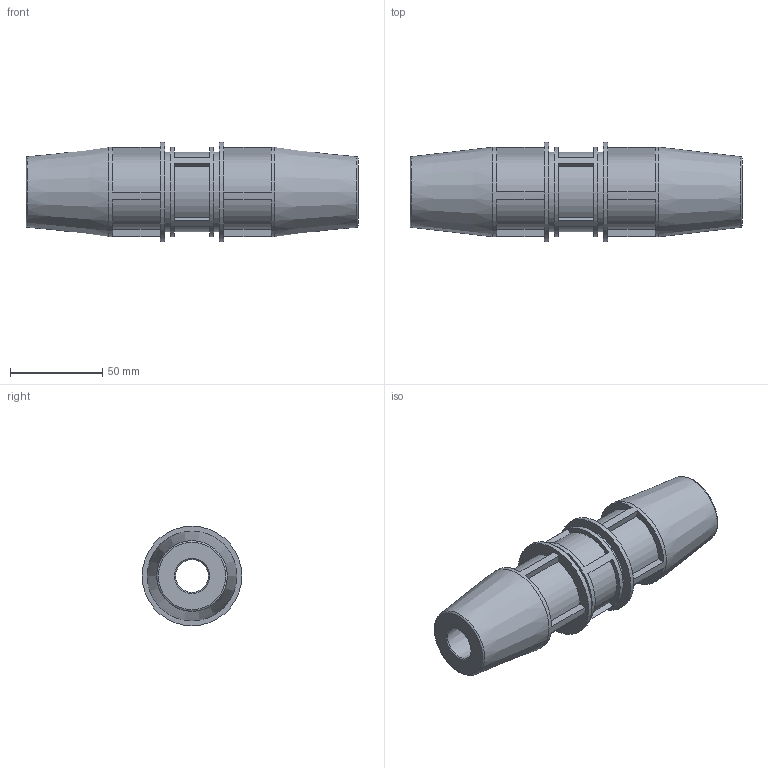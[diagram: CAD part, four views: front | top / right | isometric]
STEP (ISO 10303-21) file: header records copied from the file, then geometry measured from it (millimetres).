
FILE_DESCRIPTION(/* description */ ('PLASSON UNIVERSAL SLIP REPAIR COUPLER 14-18 SERIES 17'),/* implementation_level */ '2;1');
FILE_NAME(/* name */ 'C:\Users\comp2\Dropbox\99-16-3568-Processing\S1\17610\176100014018_196100014018.ipt.stp',/* time_stamp */ '2020-12-10T13:56:05+02:00',/* author */ ('KIM'),/* organization */ (''),/* preprocessor_version */ 'ST-DEVELOPER v17.2',/* originating_system */ 'Autodesk Inventor 2019',/* authorisation */ '');
FILE_SCHEMA (('AUTOMOTIVE_DESIGN { 1 0 10303 214 3 1 1 }'));
Length unit declared in the file: millimetre
Products named in the file (1): 176100014018_196100014018
Bounding box: 180 x 54 x 54 mm (x, y, z)
Volume: 216222.7 mm3; surface area: 45614.4 mm2
Topology: 1 solids, 1 shells, 78 faces, 211 edges, 146 vertices
Faces by surface type: plane 50, cylinder 20, cone 6, torus 2
Full cylindrical faces by diameter (mm): 17.64 x1, 43.2 x2, 48.6 x3, 54 x2
Entity records: 2568 total; most frequent: DIRECTION 469, CARTESIAN_POINT 436, ORIENTED_EDGE 422, EDGE_CURVE 211, AXIS2_PLACEMENT_3D 179, VERTEX_POINT 146, LINE 111, VECTOR 111
